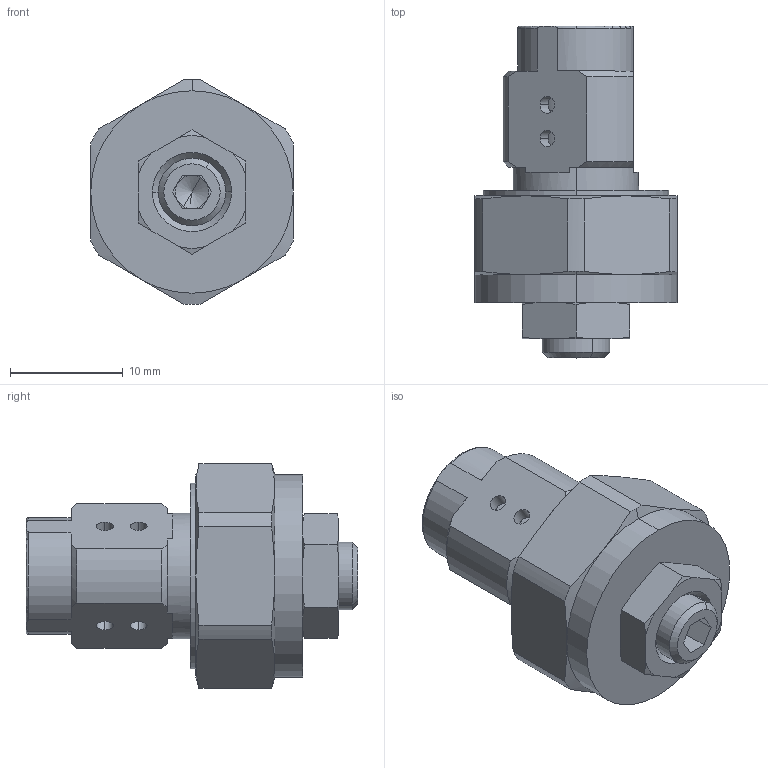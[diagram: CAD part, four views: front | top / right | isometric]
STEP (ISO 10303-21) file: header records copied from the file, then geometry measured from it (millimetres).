
FILE_DESCRIPTION (( 'STEP AP203' ), '1' );
FILE_NAME ('570200-A.step', '2016-11-02T03:07:28', ( 'wxp' ), ( '' ), 'SwSTEP 2.0', 'SolidWorks 2011', '' );
FILE_SCHEMA (( 'CONFIG_CONTROL_DESIGN' ));
Length unit declared in the file: millimetre
Products named in the file (5): 570200-A; M6_J11-2-1; 葩璃 葩璃 16.5X12X1.6^570200-A; 葩璃 葩璃 KZF0200.02^570200-A; 葩璃 葩璃 KZF0200.01^570200-A
Assembly tree (4 placements, depth 2):
  570200-A
    葩璃 葩璃 KZF0200.02^570200-A
    M6_J11-2-1
    葩璃 葩璃 16.5X12X1.6^570200-A
    葩璃 葩璃 KZF0200.01^570200-A
Bounding box: 18 x 29.5 x 20 mm (x, y, z)
Volume: 5123.6 mm3; surface area: 3259.5 mm2
Topology: 4 solids, 4 shells, 189 faces, 445 edges, 282 vertices
Faces by surface type: cylinder 82, plane 53, cone 46, torus 8
Entity records: 6470 total; most frequent: CARTESIAN_POINT 1664, DIRECTION 901, ORIENTED_EDGE 886, EDGE_CURVE 443, AXIS2_PLACEMENT_3D 369, VERTEX_POINT 282, EDGE_LOOP 213, FACE_OUTER_BOUND 189
